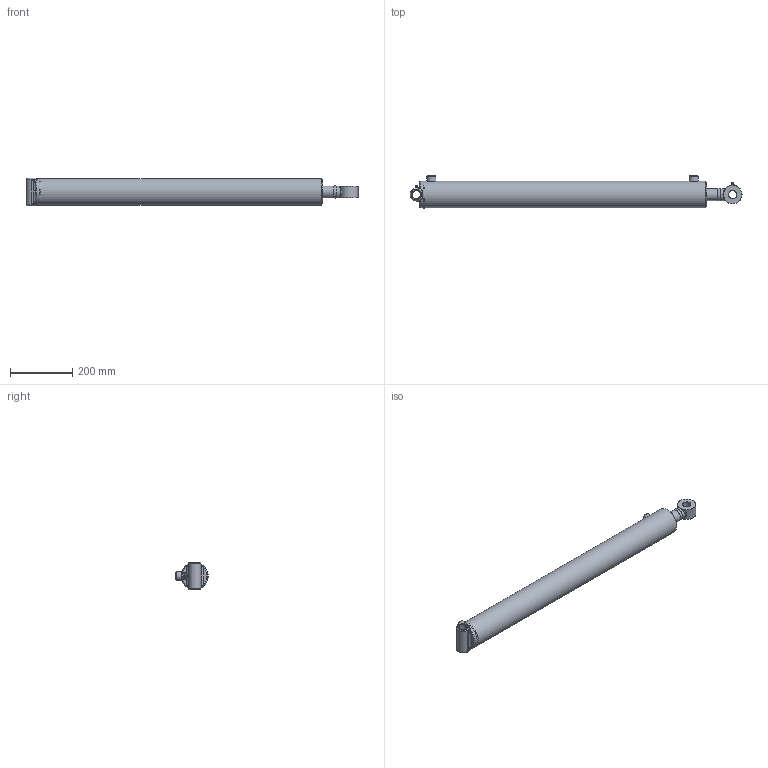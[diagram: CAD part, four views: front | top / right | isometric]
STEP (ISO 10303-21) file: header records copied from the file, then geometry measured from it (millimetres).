
FILE_DESCRIPTION(/* description */ ('Ø3.00 X 32.00 DA'),/* implementation_level */ '2;1');
FILE_NAME(/* name */ 'result.stp',/* time_stamp */ '2024-07-12T20:48:09Z',/* author */ ('AJC'),/* organization */ ('PRINCE MANUFACTURING'),/* preprocessor_version */ 'ST-DEVELOPER v20',/* originating_system */ 'Autodesk Inventor 2024',/* authorisation */ '');
FILE_SCHEMA (('AUTOMOTIVE_DESIGN { 1 0 10303 214 3 1 1 }'));
Length unit declared in the file: inch
Products named in the file (21): PC3032015A00-400XTXS; 0615-XTSF000-35507; 0515-T-35507; 161500198; 200015603; 06Weld1_C360; 0715-P-100; 220000210; 0815-G-150; 230025104; 230025004; 240000022; 240061334; 240000334; 0208A-HAW2-37813XS; 0108A-HAW2-37813; 210400772; 02Weld_C360; 240020059; 250014150; 270010020
Assembly tree (22 placements, depth 3):
  PC3032015A00-400XTXS
    0615-XTSF000-35507
      0515-T-35507
      161500198
      200015603  x2
      06Weld1_C360
    0715-P-100
    220000210
    0815-G-150
    230025104
    230025004
    240000022
    240061334
    240000334
    0208A-HAW2-37813XS
      0108A-HAW2-37813
      210400772
      02Weld_C360
    240020059
    250014150
    270010020  x2
Bounding box: 1066.04 x 104.04 x 88.9 mm (x, y, z)
Volume: 2653667 mm3; surface area: 730247 mm2
Topology: 26 solids, 26 shells, 564 faces, 1375 edges, 870 vertices
Faces by surface type: bspline 162, plane 135, torus 95, cylinder 84, cone 84, sphere 4
Full cylindrical faces by diameter (mm): 2.143 x4, 3.175 x1, 5.359 x2, 6.35 x2, 9.525 x2, 12.649 x1, 12.7 x1, 12.725 x1, 17.323 x2, 23.444 x1, 25.349 x1, 25.476 x1, 25.781 x1, 26.162 x1, 27.965 x1, 28.575 x2, 38.1 x1, 38.176 x2, 39.294 x2, 40.132 x1, 40.488 x1, 45.263 x1, 46.457 x1, 47.65 x1, 49.276 x2, 50.8 x2, 61.976 x1, 63.5 x2, 66.777 x2, 67.513 x2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
Entity records: 35075 total; most frequent: CARTESIAN_POINT 22422, ORIENTED_EDGE 2512, DIRECTION 2178, EDGE_CURVE 1256, AXIS2_PLACEMENT_3D 915, VERTEX_POINT 809, EDGE_LOOP 595, FACE_OUTER_BOUND 520
